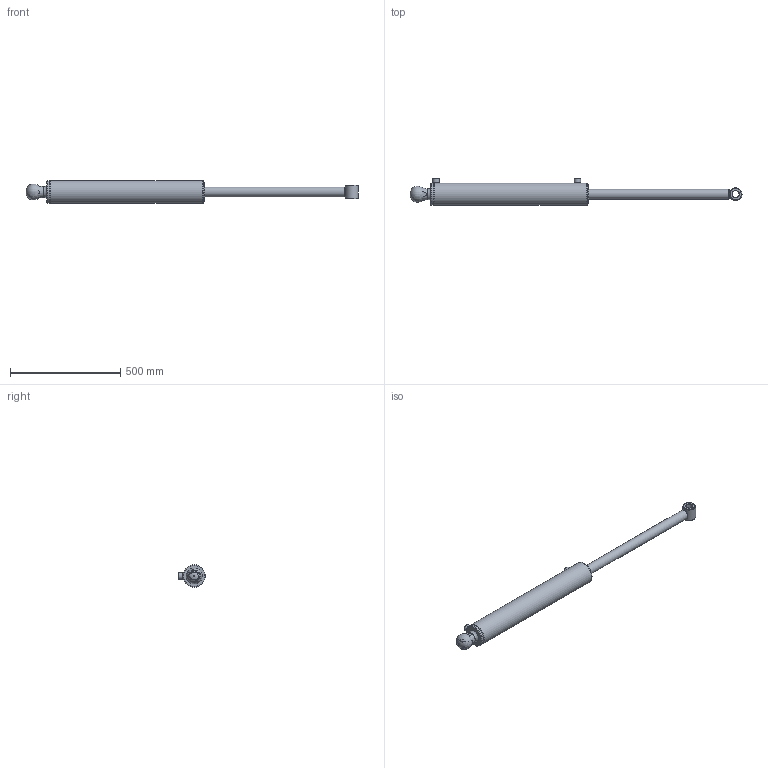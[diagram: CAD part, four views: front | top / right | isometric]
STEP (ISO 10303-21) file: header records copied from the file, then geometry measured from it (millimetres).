
FILE_DESCRIPTION(/* description */ ('Alibre Inc.'),/* implementation_level */ '2;1');
FILE_NAME(/* name */ 'export0',/* time_stamp */ '2016-08-16T10:05:20+12:00',/* author */ (''),/* organization */ (''),/* preprocessor_version */ 'ST-DEVELOPER v14',/* originating_system */ 'Alibre',/* authorisation */ '');
FILE_SCHEMA (('AUTOMOTIVE_DESIGN'));
Length unit declared in the file: centimetre
Bounding box: 1504.9 x 121.6 x 101.6 mm (x, y, z)
Volume: 3421944.9 mm3; surface area: 729030.6 mm2
Topology: 12 solids, 12 shells, 148 faces, 306 edges, 191 vertices
Faces by surface type: cylinder 57, plane 48, cone 26, torus 16, bspline 1
Full cylindrical faces by diameter (mm): 7 x1, 8.3 x2, 8.4 x1, 12.7 x2, 19.1 x2, 29.35 x1, 29.972 x1, 30 x2, 31.75 x1, 31.8 x1, 31.801 x1, 44.45 x2, 44.53 x2, 50.8 x1, 53.25 x2, 53.97 x2, 57.15 x1, 73.03 x1, 81.9 x1, 83.06 x1, 84.3 x2, 85.27 x2, 85.5 x1, 87.53 x2, 88.75 x1, 88.79 x2, 88.9 x2, 92.1 x1, 101.6 x3
Entity records: 4071 total; most frequent: CARTESIAN_POINT 1180, DIRECTION 562, ORIENTED_EDGE 372, AXIS2_PLACEMENT_3D 297, FACE_BOUND 270, EDGE_LOOP 267, EDGE_CURVE 186, VERTEX_POINT 166
